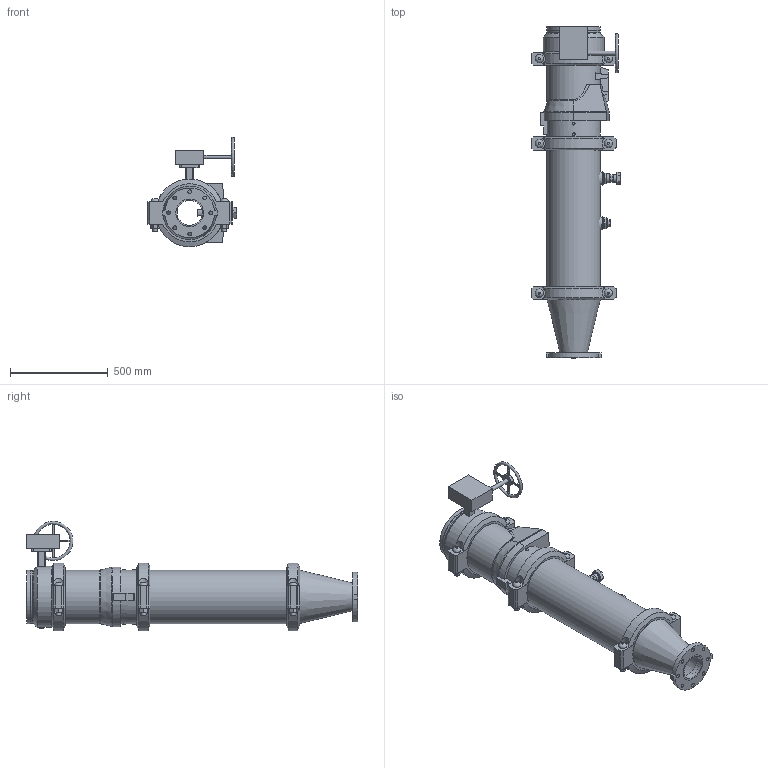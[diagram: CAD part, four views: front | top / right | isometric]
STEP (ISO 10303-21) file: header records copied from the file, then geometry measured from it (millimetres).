
FILE_DESCRIPTION(/* description */ ('VIC DVI PUMP DROP VERT S/380 (OGSxFLG) (S/924-1.25)','CAx-IF Rec.Pracs.---Representation and Presentation of Product Manufacturing Information (PMI)---4.0---2014-10-13'),/* implementation_level */ '2;1');
FILE_NAME(/* name */ 'C:\Users\Public\Documents\Victaulic.Temp\A765\Victaulic_IPS_Vertical DVI_CL 150_Series 380 (OGSxFLG)_924 (1.25)_10.0x05.0 (250x125).stp',/* time_stamp */ '2022-07-25T11:13:57+02:00',/* author */ ('Vjadhav'),/* organization */ ('Victaulic'),/* preprocessor_version */ 'ST-DEVELOPER v18',/* originating_system */ 'Autodesk Inventor 2020',/* authorisation */ '');
FILE_SCHEMA (('AP242_MANAGED_MODEL_BASED_3D_ENGINEERING_MIM_LF { 1 0 10303 442 1 1 4 }'));
Length unit declared in the file: inch
Products named in the file (9): 380_924 (1.25)-10.0x05.0; 741-05.0; 050-10.0x05.0; Pipe-10.0x05.0; 779-10.0; 923-10.0x0.75; 924-10.0x01.25; 761-10.0; 077-10.0
Assembly tree (10 placements, depth 2):
  380_924 (1.25)-10.0x05.0
    741-05.0
    050-10.0x05.0
    Pipe-10.0x05.0
    779-10.0
    923-10.0x0.75
    924-10.0x01.25
    761-10.0
    077-10.0  x3
Bounding box: 458.72 x 1695.2 x 558.01 mm (x, y, z)
Volume: 29678727.7 mm3; surface area: 4108262.1 mm2
Topology: 10 solids, 18 shells, 506 faces, 1266 edges, 863 vertices
Faces by surface type: plane 308, cylinder 163, cone 20, bspline 8, torus 7
Full cylindrical faces by diameter (mm): 10.922 x4, 12.7 x1, 13.716 x4, 19.05 x8, 20.066 x1, 21.336 x2, 22.86 x1, 25.4 x12, 26.67 x2, 27.432 x6, 38.608 x1, 42.164 x1, 45.974 x4, 48.514 x1, 55.626 x2, 63.079 x1, 70.104 x1, 76.2 x1, 128.194 x1, 137.033 x1, 141.3 x3, 254.508 x4, 264.16 x3, 268.275 x7, 273.05 x19, 311.15 x1
Entity records: 13218 total; most frequent: CARTESIAN_POINT 2656, DIRECTION 2159, ORIENTED_EDGE 1952, EDGE_CURVE 976, AXIS2_PLACEMENT_3D 824, VERTEX_POINT 667, LINE 511, VECTOR 511
